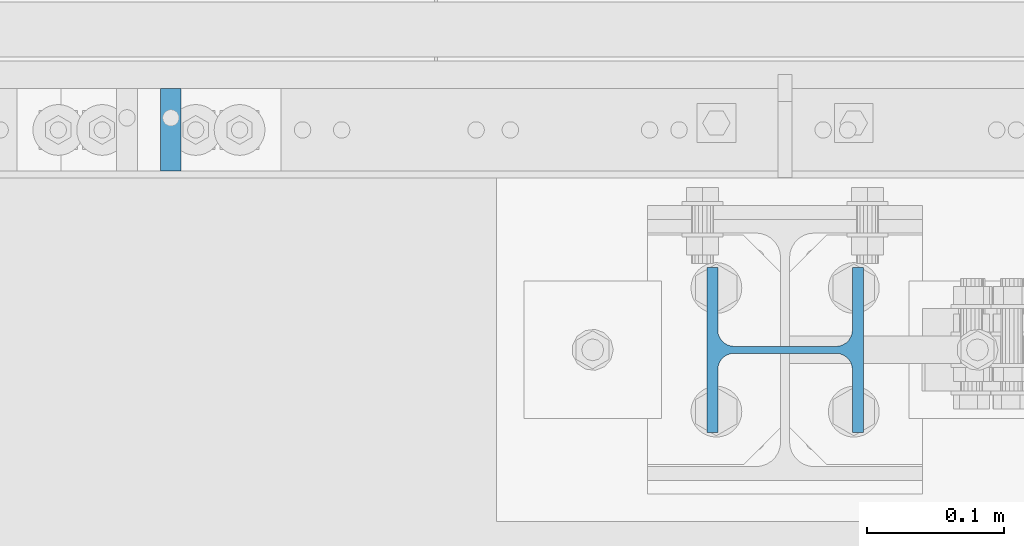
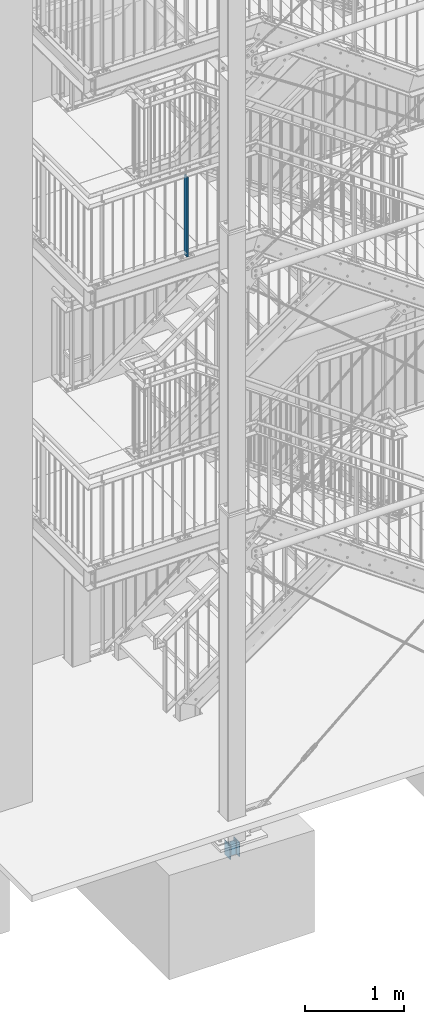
# One storey, part 11 of 831: 2 columns, 2 openings.
"""IFC2X3 building model written with IfcOpenShell, lengths in millimetres."""

from ifc_helpers import new_model, entity, si_unit, converted_unit, frame, origin, origin_with_axes, origin_2d, origin_2d_with_axis, place, context, project, spatial, rectangle, circle, i_section, extrude, clip, halfspace, material, element, save


model = new_model("IFC2X3")

# Units and contexts
model_context = context("Model", 3, precision=1e-09, world=origin_with_axes())
ifc_project = project(units=[si_unit("LENGTHUNIT", "METRE", prefix="MILLI"), si_unit("AREAUNIT", "SQUARE_METRE"), si_unit("VOLUMEUNIT", "CUBIC_METRE"), converted_unit("PLANEANGLEUNIT", "DEGREE", entity("IfcPlaneAngleMeasure", 0.01745329), si_unit("PLANEANGLEUNIT", "RADIAN"), dimensions=[0, 0, 0, 0, 0, 0, 0])], contexts=[model_context])

# Site, building, storey
site_placement = place(None, origin_with_axes())
site = spatial("IfcSite", under=ifc_project, at=site_placement, Name="Site", CompositionType="ELEMENT")
building_placement = place(site_placement, origin_with_axes())
building = spatial("IfcBuilding", under=site, at=building_placement, Name="Struktur 1", CompositionType="ELEMENT")
storey_placement = place(building_placement, origin_with_axes())
storey = spatial("IfcBuildingStorey", under=building, at=storey_placement, Name="Default Storey", CompositionType="ELEMENT", Elevation=0.0)

# Column
ifc_material = material(Name="S235JR")
column_1_placement = place(None, frame((4409.791688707, 4526.736971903, 8359.723292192), z_axis=(0.0, 0.0, 1.0), x_axis=(-1.0, 0.0, 0.0)))
element("IfcColumn", 1, at=column_1_placement, inside=storey, material=ifc_material, Name="Railing_Post_Landing#12", ObjectType="Railing_Post_Landing#12", context=model_context, shape_type="Clipping", body=[
    clip(clip(extrude(rectangle(XDim=15.0, YDim=60.0, at=origin_2d()), origin(), (0.0, 0.0, -1.0), 1070.646584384), halfspace(frame((4409.791688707, 4526.736971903, -1019.722292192), z_axis=(0.0, 0.0, 1.0), x_axis=(-1.0, 0.0, 0.0)), True)), halfspace(frame((4409.791688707, 4526.736971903, -30.924292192), z_axis=(0.0, 0.0, -1.0), x_axis=(1.0, 0.0, 0.0)), True)),
])

# Column, openings
column_2_placement = place(None, frame((4856.713402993, 4366.736971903, 30.0), z_axis=(0.0, 0.0, 1.0), x_axis=(0.0, -1.0, 0.0)))
column_2 = element("IfcColumn", 2, at=column_2_placement, inside=storey, material=ifc_material, Name="-", ObjectType="-", context=model_context, shape_type="SweptSolid", body=[
    extrude(i_section(OverallWidth=120.0, OverallDepth=114.0, WebThickness=5.0, FlangeThickness=8.0, FilletRadius=12.0, at=origin_2d()), origin(), (0.0, 0.0, -1.0), 180.0),
])
opening_1_placement = place(column_2_placement, frame((-3.0, 30.0, -12.0), z_axis=(1.0, 0.0, 0.0), x_axis=(0.0, 0.0, -1.0)))
element("IfcOpeningElement", 3, at=opening_1_placement, cuts=column_2, ObjectType="Opening", context=model_context, shape_type="SweptSolid", body=[
    extrude(circle(Radius=6.001, at=origin_2d_with_axis()), origin(), (0.0, 0.0, 1.0), 6.0),
])
opening_2_placement = place(column_2_placement, frame((-3.0, -30.0, -12.0), z_axis=(1.0, 0.0, 0.0), x_axis=(0.0, 0.0, -1.0)))
element("IfcOpeningElement", 4, at=opening_2_placement, cuts=column_2, ObjectType="Opening", context=model_context, shape_type="SweptSolid", body=[
    extrude(circle(Radius=6.001, at=origin_2d_with_axis()), origin(), (0.0, 0.0, 1.0), 6.0),
])

save(model, "model.ifc")
